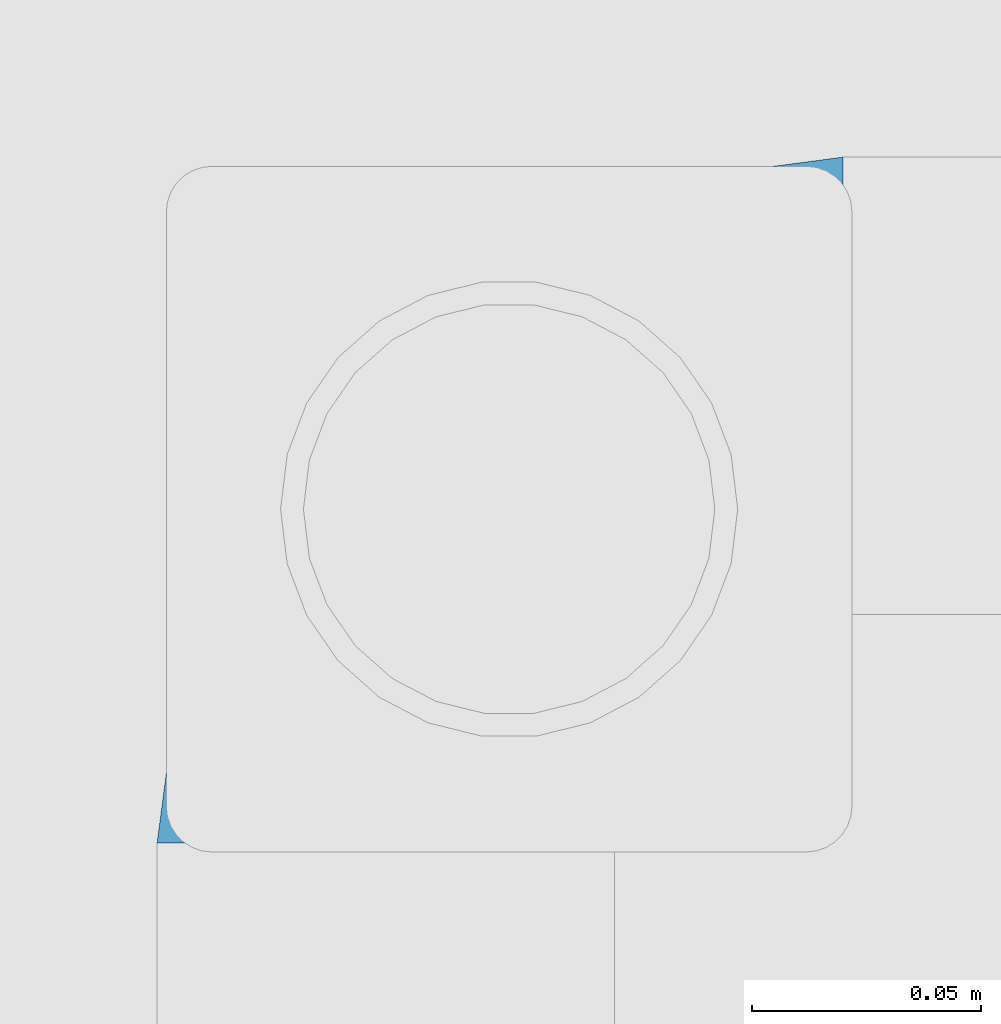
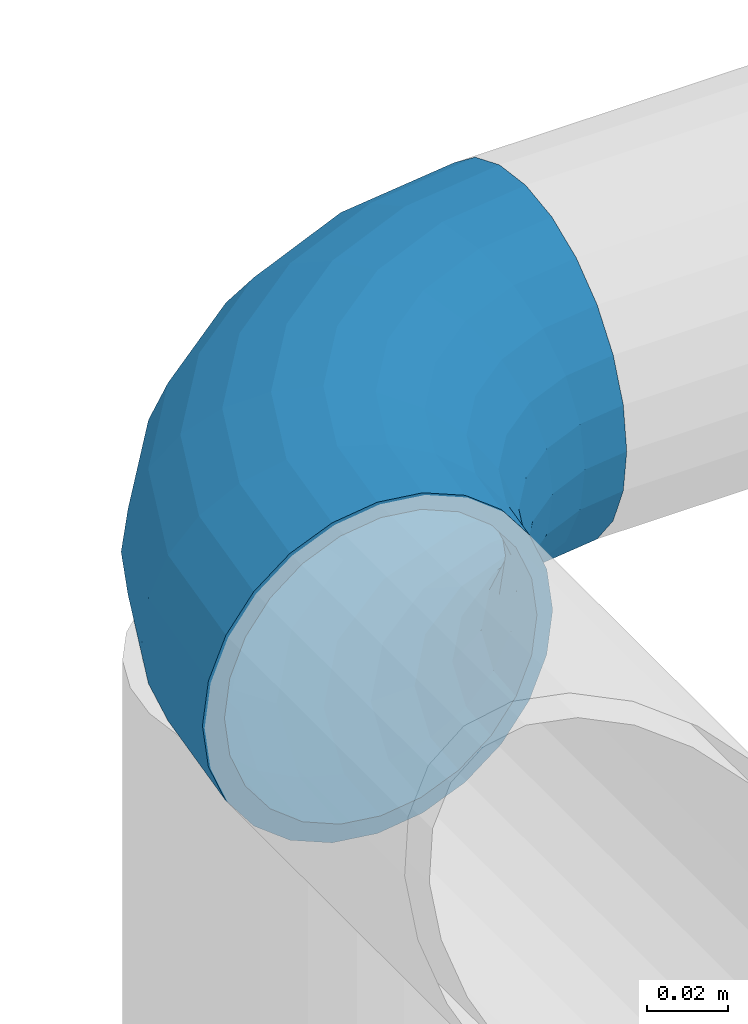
# One storey, part 152 of 418: 1 discrete accessory.
"""IFC2X3 building model written with IfcOpenShell, lengths in millimetres."""

from ifc_helpers import new_model, entity, si_unit, converted_unit, derived_unit, money_unit, direction, frame, origin_with_axes, place, context, subcontext, project, spatial, faceted_brep, type_object, element, save


model = new_model("IFC2X3")

# Units and contexts
model_context = context("Model", 3, precision=0.01, world=origin_with_axes(), true_north=direction((0.0, 1.0)))
body_context = subcontext(model_context, "Body", "Model", "MODEL_VIEW")
ifc_project = project(units=[si_unit("LENGTHUNIT", "METRE", prefix="MILLI"), si_unit("AREAUNIT", "SQUARE_METRE"), si_unit("VOLUMEUNIT", "CUBIC_METRE"), converted_unit("PLANEANGLEUNIT", "DEGREE", entity("IfcPlaneAngleMeasure", 0.0174532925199), si_unit("PLANEANGLEUNIT", "RADIAN"), dimensions=[0, 0, 0, 0, 0, 0, 0]), si_unit("SOLIDANGLEUNIT", "STERADIAN"), money_unit("EUR"), converted_unit("TIMEUNIT", "Year", entity("IfcTimeMeasure", 31556926.0), si_unit("TIMEUNIT", "SECOND"), dimensions=[0, 0, 1, 0, 0, 0, 0]), si_unit("MASSUNIT", "GRAM", prefix="KILO"), si_unit("THERMODYNAMICTEMPERATUREUNIT", "DEGREE_CELSIUS"), si_unit("LUMINOUSINTENSITYUNIT", "LUMEN"), si_unit("ENERGYUNIT", "JOULE", prefix="MEGA"), derived_unit("THERMALCONDUCTANCEUNIT", [(si_unit("POWERUNIT", "WATT"), 1), (si_unit("LENGTHUNIT", "METRE"), -1), (si_unit("THERMODYNAMICTEMPERATUREUNIT", "KELVIN"), -1)]), derived_unit("SPECIFICHEATCAPACITYUNIT", [(si_unit("ENERGYUNIT", "JOULE"), 1), (si_unit("MASSUNIT", "GRAM", prefix="KILO"), -1), (si_unit("THERMODYNAMICTEMPERATUREUNIT", "KELVIN"), -1)]), derived_unit("MASSDENSITYUNIT", [(si_unit("MASSUNIT", "GRAM", prefix="KILO"), 1), (si_unit("VOLUMEUNIT", "CUBIC_METRE"), -1)])], contexts=[model_context])

# Site, building, storey
site_placement = place(None, origin_with_axes())
site = spatial("IfcSite", under=ifc_project, at=site_placement, Name="Paldiski mnt 245/1, Tallinn, Harjumaa", CompositionType="COMPLEX")
building_placement = place(site_placement, origin_with_axes())
building = spatial("IfcBuilding", under=site, at=building_placement, Name="RKAS Hoone üldnimetus (kasutust iseloomustav) -> IFC Project Manager -> SOLIBRI", CompositionType="ELEMENT")
storey_placement = place(building_placement, origin_with_axes())
storey = spatial("IfcBuildingStorey", under=building, at=storey_placement, Name="Esimene korrus", CompositionType="ELEMENT", Elevation=0.0)

# Discrete accessory
discrete_accessory_type = type_object("IfcDiscreteAccessoryType", Name="Elbow Tube 23")
discrete_accessory_placement = place(storey_placement, frame((-64473.5006649, 36573.4999944, 200.0), z_axis=(0.0, 0.0, 1.0), x_axis=(0.0, 1.0, 0.0)))
element("IfcDiscreteAccessory", 1, at=discrete_accessory_placement, inside=storey, type_object=discrete_accessory_type, Name="Päikesepaneel", context=body_context, shape_type="Brep", body=[
    faceted_brep([(-48.2962913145, 0.0, -12.9409522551), (-43.3012701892, 0.0, -25.0), (-35.3553390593, 0.0, -35.3553390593), (-25.0, 0.0, -43.3012701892), (-12.9409522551, 0.0, -48.2962913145), (0.0, 0.0, -50.0), (12.9409522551, 0.0, -48.2962913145), (25.0, 0.0, -43.3012701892), (35.3553390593, 0.0, -35.3553390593), (43.3012701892, 0.0, -25.0), (48.2962913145, 0.0, -12.9409522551), (50.0, 0.0, 0.0), (48.2962913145, 0.0, 12.9409522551), (43.3012701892, 0.0, 25.0), (35.3553390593, 0.0, 35.3553390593), (25.0, 0.0, 43.3012701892), (12.9409522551, 0.0, 48.2962913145), (0.0, 0.0, 50.0), (-12.9409522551, 0.0, 48.2962913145), (-25.0, 0.0, 43.3012701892), (-35.3553390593, 0.0, 35.3553390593), (-43.3012701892, 0.0, 25.0), (-48.2962913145, 0.0, 12.9409522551), (-50.0, 0.0, 0.0), (-39.513173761, 0.0, 22.5), (-32.4253506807, 0.0, 31.8198051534), (-23.1883198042, 0.0, 38.9711431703), (-12.4315695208, 0.0, 43.466662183), (-0.888154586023, 0.0, 45.0), (10.6552603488, 0.0, 43.466662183), (21.4120106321, 0.0, 38.9711431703), (30.6490415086, 0.0, 31.8198051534), (37.736864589, 0.0, 22.5), (42.1924564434, 0.0, 11.6468570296), (43.7121758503, 0.0, 0.0), (42.1924564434, 0.0, -11.6468570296), (37.736864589, 0.0, -22.5), (30.6490415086, 0.0, -31.8198051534), (21.4120106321, 0.0, -38.9711431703), (10.6552603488, 0.0, -43.466662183), (-0.888154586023, 0.0, -45.0), (-12.4315695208, 0.0, -43.466662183), (-23.1883198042, 0.0, -38.9711431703), (-32.4253506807, 0.0, -31.8198051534), (-39.513173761, 0.0, -22.5), (-43.9687656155, 0.0, -11.6468570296), (-45.4884850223, 0.0, 0.0), (-43.9687656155, 0.0, 11.6468570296), (-45.233232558, 14.6747111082, -25.0), (-50.0580524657, 13.3819045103, -12.9409522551), (-37.5580524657, 16.7312694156, -35.3553390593), (-27.5555630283, 19.4114283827, -43.3012701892), (-15.9074173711, 22.5325396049, -48.2962913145), (-3.40741737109, 25.8819045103, -50.0), (9.09258262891, 29.2312694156, -48.2962913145), (20.7407282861, 32.3523806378, -43.3012701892), (30.7432177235, 35.0325396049, -35.3553390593), (38.4183978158, 37.0890979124, -25.0), (43.2432177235, 38.3819045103, -12.9409522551), (44.8888739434, 38.8228567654, 0.0), (43.2432177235, 38.3819045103, 12.9409522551), (38.4183978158, 37.0890979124, 25.0), (30.7432177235, 35.0325396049, 35.3553390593), (20.7407282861, 32.3523806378, 43.3012701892), (9.09258262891, 29.2312694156, 48.2962913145), (-3.40741737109, 25.8819045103, 50.0), (-15.9074173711, 22.5325396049, 48.2962913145), (-27.5555630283, 19.4114283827, 43.3012701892), (-37.5580524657, 16.7312694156, 35.3553390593), (-45.233232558, 14.6747111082, 25.0), (-50.0580524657, 13.3819045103, 12.9409522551), (-51.7037086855, 12.9409522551, 0.0), (-40.2319614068, 12.3411072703, 22.5), (-33.2283655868, 13.787233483, 31.8198051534), (-24.1011018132, 15.6718618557, 38.9711431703), (-13.4721780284, 17.8665580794, 43.466662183), (-2.06593782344, 20.2217572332, 45.0), (9.34030238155, 22.576956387, 43.466662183), (19.9692261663, 24.7716526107, 38.9711431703), (29.0964899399, 26.6562809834, 31.8198051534), (36.1000857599, 28.1024071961, 22.5), (40.5027301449, 29.0114801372, 11.6468570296), (42.004390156, 29.3215479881, 0.0), (40.5027301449, 29.0114801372, -11.6468570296), (36.1000857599, 28.1024071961, -22.5), (29.0964899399, 26.6562809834, -31.8198051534), (19.9692261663, 24.7716526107, -38.9711431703), (9.34030238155, 22.576956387, -43.466662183), (-2.06593782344, 20.2217572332, -45.0), (-13.4721780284, 17.8665580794, -43.466662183), (-24.1011018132, 15.6718618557, -38.9711431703), (-33.2283655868, 13.787233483, -31.8198051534), (-40.2319614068, 12.3411072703, -22.5), (-44.6346057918, 11.4320343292, -11.6468570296), (-46.1362658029, 11.1219664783, 0.0), (-44.6346057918, 11.4320343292, 11.6468570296), (-50.8974596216, 28.3493649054, -25.0), (-55.2232748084, 25.8518543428, -12.9409522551), (-44.0160814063, 32.3223304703, -35.3553390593), (-35.0480947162, 37.5, -43.3012701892), (-24.6046530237, 43.5295238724, -48.2962913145), (-13.3974596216, 50.0, -50.0), (-2.19026621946, 56.4704761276, -48.2962913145), (8.25317547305, 62.5, -43.3012701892), (17.2211621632, 67.6776695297, -35.3553390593), (24.1025403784, 71.6506350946, -25.0), (28.4283555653, 74.1481456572, -12.9409522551), (29.9038105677, 75.0, 0.0), (28.4283555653, 74.1481456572, 12.9409522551), (24.1025403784, 71.6506350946, 25.0), (17.2211621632, 67.6776695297, 35.3553390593), (8.25317547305, 62.5, 43.3012701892), (-2.19026621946, 56.4704761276, 48.2962913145), (-13.3974596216, 50.0, 50.0), (-24.6046530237, 43.5295238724, 48.2962913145), (-35.0480947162, 37.5, 43.3012701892), (-44.0160814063, 32.3223304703, 35.3553390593), (-50.8974596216, 28.3493649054, 25.0), (-55.2232748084, 25.8518543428, 12.9409522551), (-56.6987298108, 25.0, 0.0), (-39.9876976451, 32.3583456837, 31.8198051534), (-46.2823153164, 28.9643180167, 22.5), (-31.7843921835, 36.7815286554, 38.9711431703), (-22.2314406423, 41.9324343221, 43.466662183), (-11.979860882, 47.4600369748, 45.0), (-1.72828112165, 52.9876396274, 43.466662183), (7.82467041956, 58.1385452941, 38.9711431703), (16.0279758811, 62.5617282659, 31.8198051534), (22.3225935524, 65.9557559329, 22.5), (26.2795556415, 68.0893309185, 11.6468570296), (27.6292017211, 68.8170536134, 0.0), (26.2795556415, 68.0893309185, -11.6468570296), (22.3225935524, 65.9557559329, -22.5), (16.0279758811, 62.5617282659, -31.8198051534), (7.82467041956, 58.1385452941, -38.9711431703), (-1.72828112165, 52.9876396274, -43.466662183), (-11.979860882, 47.4600369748, -45.0), (-22.2314406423, 41.9324343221, -43.466662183), (-31.7843921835, 36.7815286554, -38.9711431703), (-39.9876976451, 32.3583456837, -31.8198051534), (-46.2823153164, 28.9643180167, -22.5), (-50.2392774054, 26.830743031, -11.6468570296), (-51.5889234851, 26.1030203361, 0.0), (-50.2392774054, 26.830743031, 11.6468570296), (-59.9079436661, 40.0920563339, -25.0), (-63.439956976, 36.560043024, -12.9409522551), (-54.2893218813, 45.7106781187, -35.3553390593), (-46.966991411, 53.033008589, -43.3012701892), (-38.439956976, 61.560043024, -48.2962913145), (-29.2893218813, 70.7106781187, -50.0), (-20.1386867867, 79.8613132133, -48.2962913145), (-11.6116523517, 88.3883476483, -43.3012701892), (-4.28932188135, 95.7106781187, -35.3553390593), (1.32929990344, 101.329299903, -25.0), (4.86131321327, 104.861313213, -12.9409522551), (6.06601717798, 106.066017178, 0.0), (4.86131321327, 104.861313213, 12.9409522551), (1.32929990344, 101.329299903, 25.0), (-4.28932188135, 95.7106781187, 35.3553390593), (-11.6116523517, 88.3883476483, 43.3012701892), (-20.1386867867, 79.8613132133, 48.2962913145), (-29.2893218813, 70.7106781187, 50.0), (-38.439956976, 61.560043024, 48.2962913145), (-46.966991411, 53.033008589, 43.3012701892), (-54.2893218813, 45.7106781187, 35.3553390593), (-59.9079436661, 40.0920563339, 25.0), (-63.439956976, 36.560043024, 12.9409522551), (-64.6446609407, 35.3553390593, 0.0), (-51.7893218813, 48.2106781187, 31.8198051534), (-56.8460814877, 43.1539185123, 22.5), (-45.199224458, 54.800775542, 38.9711431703), (-37.5248934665, 62.4751065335, 43.466662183), (-29.2893218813, 70.7106781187, 45.0), (-21.0537502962, 78.9462497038, 43.466662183), (-13.3794193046, 86.6205806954, 38.9711431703), (-6.78932188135, 93.2106781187, 31.8198051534), (-1.73256227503, 98.267437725, 22.5), (1.4462497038, 101.446249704, 11.6468570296), (2.53048327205, 102.530483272, 0.0), (1.4462497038, 101.446249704, -11.6468570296), (-1.73256227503, 98.267437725, -22.5), (-6.78932188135, 93.2106781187, -31.8198051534), (-13.3794193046, 86.6205806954, -38.9711431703), (-21.0537502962, 78.9462497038, -43.466662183), (-29.2893218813, 70.7106781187, -45.0), (-37.5248934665, 62.4751065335, -43.466662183), (-45.199224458, 54.800775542, -38.9711431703), (-51.7893218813, 48.2106781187, -31.8198051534), (-56.8460814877, 43.1539185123, -22.5), (-60.0248934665, 39.9751065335, -11.6468570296), (-61.1091270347, 38.8908729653, 0.0), (-60.0248934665, 39.9751065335, 11.6468570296), (-71.6506350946, 49.1025403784, -25.0), (-74.1481456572, 44.7767251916, -12.9409522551), (-67.6776695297, 55.9839185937, -35.3553390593), (-62.5, 64.9519052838, -43.3012701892), (-56.4704761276, 75.3953469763, -48.2962913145), (-50.0, 86.6025403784, -50.0), (-43.5295238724, 97.8097337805, -48.2962913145), (-37.5, 108.253175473, -43.3012701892), (-32.3223304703, 117.221162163, -35.3553390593), (-28.3493649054, 124.102540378, -25.0), (-25.8518543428, 128.428355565, -12.9409522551), (-25.0, 129.903810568, 0.0), (-25.8518543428, 128.428355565, 12.9409522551), (-28.3493649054, 124.102540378, 25.0), (-32.3223304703, 117.221162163, 35.3553390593), (-37.5, 108.253175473, 43.3012701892), (-43.5295238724, 97.8097337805, 48.2962913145), (-50.0, 86.6025403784, 50.0), (-56.4704761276, 75.3953469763, 48.2962913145), (-62.5, 64.9519052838, 43.3012701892), (-67.6776695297, 55.9839185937, 35.3553390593), (-71.6506350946, 49.1025403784, 25.0), (-74.1481456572, 44.7767251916, 12.9409522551), (-75.0, 43.3012701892, 0.0), (-67.6416543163, 60.0123023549, 31.8198051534), (-71.0356819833, 53.7176846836, 22.5), (-63.2184713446, 68.2156078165, 38.9711431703), (-58.0675656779, 77.7685593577, 43.466662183), (-52.5399630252, 88.020139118, 45.0), (-47.0123603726, 98.2717188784, 43.466662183), (-41.8614547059, 107.82467042, 38.9711431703), (-37.4382717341, 116.027975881, 31.8198051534), (-34.0442440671, 122.322593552, 22.5), (-31.9106690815, 126.279555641, 11.6468570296), (-31.1829463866, 127.629201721, 0.0), (-31.9106690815, 126.279555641, -11.6468570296), (-34.0442440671, 122.322593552, -22.5), (-37.4382717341, 116.027975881, -31.8198051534), (-41.8614547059, 107.82467042, -38.9711431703), (-47.0123603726, 98.2717188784, -43.466662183), (-52.5399630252, 88.020139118, -45.0), (-58.0675656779, 77.7685593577, -43.466662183), (-63.2184713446, 68.2156078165, -38.9711431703), (-67.6416543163, 60.0123023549, -31.8198051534), (-71.0356819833, 53.7176846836, -22.5), (-73.169256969, 49.7607225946, -11.6468570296), (-73.8969796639, 48.4110765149, 0.0), (-73.169256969, 49.7607225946, 11.6468570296), (-85.3252888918, 54.766767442, -25.0), (-86.6180954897, 49.9419475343, -12.9409522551), (-83.2687305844, 62.4419475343, -35.3553390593), (-80.5885716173, 72.4444369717, -43.3012701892), (-77.4674603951, 84.0925826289, -48.2962913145), (-74.1180954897, 96.5925826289, -50.0), (-70.7687305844, 109.092582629, -48.2962913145), (-67.6476193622, 120.740728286, -43.3012701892), (-64.9674603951, 130.743217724, -35.3553390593), (-62.9109020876, 138.418397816, -25.0), (-61.6180954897, 143.243217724, -12.9409522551), (-61.1771432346, 144.888873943, 0.0), (-61.6180954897, 143.243217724, 12.9409522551), (-62.9109020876, 138.418397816, 25.0), (-64.9674603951, 130.743217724, 35.3553390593), (-67.6476193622, 120.740728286, 43.3012701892), (-70.7687305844, 109.092582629, 48.2962913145), (-74.1180954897, 96.5925826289, 50.0), (-77.4674603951, 84.0925826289, 48.2962913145), (-80.5885716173, 72.4444369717, 43.3012701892), (-83.2687305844, 62.4419475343, 35.3553390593), (-85.3252888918, 54.766767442, 25.0), (-86.6180954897, 49.9419475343, 12.9409522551), (-87.0590477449, 48.2962913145, 0.0), (-86.212766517, 66.7716344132, 31.8198051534), (-87.6588927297, 59.7680385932, 22.5), (-84.3281381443, 75.8988981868, 38.9711431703), (-82.1334419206, 86.5278219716, 43.466662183), (-79.7782427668, 97.9340621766, 45.0), (-77.423043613, 109.340302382, 43.466662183), (-75.2283473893, 119.969226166, 38.9711431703), (-73.3437190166, 129.09648994, 31.8198051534), (-71.8975928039, 136.10008576, 22.5), (-70.9885198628, 140.502730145, 11.6468570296), (-70.6784520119, 142.004390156, 0.0), (-70.9885198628, 140.502730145, -11.6468570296), (-71.8975928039, 136.10008576, -22.5), (-73.3437190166, 129.09648994, -31.8198051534), (-75.2283473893, 119.969226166, -38.9711431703), (-77.423043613, 109.340302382, -43.466662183), (-79.7782427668, 97.9340621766, -45.0), (-82.1334419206, 86.5278219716, -43.466662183), (-84.3281381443, 75.8988981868, -38.9711431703), (-86.212766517, 66.7716344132, -31.8198051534), (-87.6588927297, 59.7680385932, -22.5), (-88.5679656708, 55.3653942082, -11.6468570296), (-88.8780335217, 53.8637341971, 0.0), (-88.5679656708, 55.3653942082, 11.6468570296), (-100.0, 56.6987298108, -25.0), (-100.0, 51.7037086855, -12.9409522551), (-100.0, 64.6446609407, -35.3553390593), (-100.0, 75.0, -43.3012701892), (-100.0, 87.0590477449, -48.2962913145), (-100.0, 100.0, -50.0), (-100.0, 112.940952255, -48.2962913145), (-100.0, 125.0, -43.3012701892), (-100.0, 135.355339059, -35.3553390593), (-100.0, 143.301270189, -25.0), (-100.0, 148.296291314, -12.9409522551), (-100.0, 150.0, 0.0), (-100.0, 148.296291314, 12.9409522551), (-100.0, 143.301270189, 25.0), (-100.0, 135.355339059, 35.3553390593), (-100.0, 125.0, 43.3012701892), (-100.0, 112.940952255, 48.2962913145), (-100.0, 100.0, 50.0), (-100.0, 87.0590477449, 48.2962913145), (-100.0, 75.0, 43.3012701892), (-100.0, 64.6446609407, 35.3553390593), (-100.0, 56.6987298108, 25.0), (-100.0, 51.7037086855, 12.9409522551), (-100.0, 50.0, 0.0), (-100.0, 67.5746493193, 31.8198051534), (-100.0, 60.486826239, 22.5), (-100.0, 76.8116801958, 38.9711431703), (-100.0, 87.5684304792, 43.466662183), (-100.0, 99.111845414, 45.0), (-100.0, 110.655260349, 43.466662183), (-100.0, 121.412010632, 38.9711431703), (-100.0, 130.649041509, 31.8198051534), (-100.0, 137.736864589, 22.5), (-100.0, 142.192456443, 11.6468570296), (-100.0, 143.71217585, 0.0), (-100.0, 142.192456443, -11.6468570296), (-100.0, 137.736864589, -22.5), (-100.0, 130.649041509, -31.8198051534), (-100.0, 121.412010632, -38.9711431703), (-100.0, 110.655260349, -43.466662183), (-100.0, 99.111845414, -45.0), (-100.0, 87.5684304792, -43.466662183), (-100.0, 76.8116801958, -38.9711431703), (-100.0, 67.5746493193, -31.8198051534), (-100.0, 60.486826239, -22.5), (-100.0, 56.0312343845, -11.6468570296), (-100.0, 54.5115149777, 0.0), (-100.0, 56.0312343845, 11.6468570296)], [[[0, 1, 2, 3, 4, 5, 6, 7, 8, 9, 10, 11, 12, 13, 14, 15, 16, 17, 18, 19, 20, 21, 22, 23], [24, 25, 26, 27, 28, 29, 30, 31, 32, 33, 34, 35, 36, 37, 38, 39, 40, 41, 42, 43, 44, 45, 46, 47]], [[48, 1, 0, 49]], [[50, 2, 1, 48]], [[51, 3, 2, 50]], [[52, 4, 3, 51]], [[53, 5, 4, 52]], [[54, 6, 5, 53]], [[55, 7, 6, 54]], [[56, 8, 7, 55]], [[57, 9, 8, 56]], [[58, 10, 9, 57]], [[59, 11, 10, 58]], [[60, 12, 11, 59]], [[61, 13, 12, 60]], [[62, 14, 13, 61]], [[63, 15, 14, 62]], [[64, 16, 15, 63]], [[65, 17, 16, 64]], [[66, 18, 17, 65]], [[67, 19, 18, 66]], [[68, 20, 19, 67]], [[69, 21, 20, 68]], [[70, 22, 21, 69]], [[71, 23, 22, 70]], [[49, 0, 23, 71]], [[24, 72, 73, 25]], [[25, 73, 74, 26]], [[26, 74, 75, 27]], [[27, 75, 76, 28]], [[28, 76, 77, 29]], [[29, 77, 78, 30]], [[30, 78, 79, 31]], [[31, 79, 80, 32]], [[32, 80, 81, 33]], [[33, 81, 82, 34]], [[34, 82, 83, 35]], [[35, 83, 84, 36]], [[36, 84, 85, 37]], [[37, 85, 86, 38]], [[38, 86, 87, 39]], [[39, 87, 88, 40]], [[40, 88, 89, 41]], [[41, 89, 90, 42]], [[42, 90, 91, 43]], [[43, 91, 92, 44]], [[44, 92, 93, 45]], [[45, 93, 94, 46]], [[46, 94, 95, 47]], [[47, 95, 72, 24]], [[96, 48, 49, 97]], [[98, 50, 48, 96]], [[99, 51, 50, 98]], [[100, 52, 51, 99]], [[101, 53, 52, 100]], [[102, 54, 53, 101]], [[103, 55, 54, 102]], [[104, 56, 55, 103]], [[105, 57, 56, 104]], [[106, 58, 57, 105]], [[107, 59, 58, 106]], [[108, 60, 59, 107]], [[109, 61, 60, 108]], [[110, 62, 61, 109]], [[111, 63, 62, 110]], [[112, 64, 63, 111]], [[113, 65, 64, 112]], [[114, 66, 65, 113]], [[115, 67, 66, 114]], [[116, 68, 67, 115]], [[117, 69, 68, 116]], [[118, 70, 69, 117]], [[119, 71, 70, 118]], [[97, 49, 71, 119]], [[120, 73, 72, 121]], [[122, 74, 73, 120]], [[123, 75, 74, 122]], [[124, 76, 75, 123]], [[125, 77, 76, 124]], [[126, 78, 77, 125]], [[127, 79, 78, 126]], [[128, 80, 79, 127]], [[129, 81, 80, 128]], [[130, 82, 81, 129]], [[131, 83, 82, 130]], [[132, 84, 83, 131]], [[133, 85, 84, 132]], [[134, 86, 85, 133]], [[135, 87, 86, 134]], [[136, 88, 87, 135]], [[137, 89, 88, 136]], [[138, 90, 89, 137]], [[139, 91, 90, 138]], [[140, 92, 91, 139]], [[141, 93, 92, 140]], [[142, 94, 93, 141]], [[143, 95, 94, 142]], [[121, 72, 95, 143]], [[144, 96, 97, 145]], [[146, 98, 96, 144]], [[147, 99, 98, 146]], [[148, 100, 99, 147]], [[149, 101, 100, 148]], [[150, 102, 101, 149]], [[151, 103, 102, 150]], [[152, 104, 103, 151]], [[153, 105, 104, 152]], [[154, 106, 105, 153]], [[155, 107, 106, 154]], [[156, 108, 107, 155]], [[157, 109, 108, 156]], [[158, 110, 109, 157]], [[159, 111, 110, 158]], [[160, 112, 111, 159]], [[161, 113, 112, 160]], [[162, 114, 113, 161]], [[163, 115, 114, 162]], [[164, 116, 115, 163]], [[165, 117, 116, 164]], [[166, 118, 117, 165]], [[167, 119, 118, 166]], [[145, 97, 119, 167]], [[168, 120, 121, 169]], [[170, 122, 120, 168]], [[171, 123, 122, 170]], [[172, 124, 123, 171]], [[173, 125, 124, 172]], [[174, 126, 125, 173]], [[175, 127, 126, 174]], [[176, 128, 127, 175]], [[177, 129, 128, 176]], [[178, 130, 129, 177]], [[179, 131, 130, 178]], [[180, 132, 131, 179]], [[181, 133, 132, 180]], [[182, 134, 133, 181]], [[183, 135, 134, 182]], [[184, 136, 135, 183]], [[185, 137, 136, 184]], [[186, 138, 137, 185]], [[187, 139, 138, 186]], [[188, 140, 139, 187]], [[189, 141, 140, 188]], [[190, 142, 141, 189]], [[191, 143, 142, 190]], [[169, 121, 143, 191]], [[192, 144, 145, 193]], [[194, 146, 144, 192]], [[195, 147, 146, 194]], [[196, 148, 147, 195]], [[197, 149, 148, 196]], [[198, 150, 149, 197]], [[199, 151, 150, 198]], [[200, 152, 151, 199]], [[201, 153, 152, 200]], [[202, 154, 153, 201]], [[203, 155, 154, 202]], [[204, 156, 155, 203]], [[205, 157, 156, 204]], [[206, 158, 157, 205]], [[207, 159, 158, 206]], [[208, 160, 159, 207]], [[209, 161, 160, 208]], [[210, 162, 161, 209]], [[211, 163, 162, 210]], [[212, 164, 163, 211]], [[213, 165, 164, 212]], [[214, 166, 165, 213]], [[215, 167, 166, 214]], [[193, 145, 167, 215]], [[216, 168, 169, 217]], [[218, 170, 168, 216]], [[219, 171, 170, 218]], [[220, 172, 171, 219]], [[221, 173, 172, 220]], [[222, 174, 173, 221]], [[223, 175, 174, 222]], [[224, 176, 175, 223]], [[225, 177, 176, 224]], [[226, 178, 177, 225]], [[227, 179, 178, 226]], [[228, 180, 179, 227]], [[229, 181, 180, 228]], [[230, 182, 181, 229]], [[231, 183, 182, 230]], [[232, 184, 183, 231]], [[233, 185, 184, 232]], [[234, 186, 185, 233]], [[235, 187, 186, 234]], [[236, 188, 187, 235]], [[237, 189, 188, 236]], [[238, 190, 189, 237]], [[239, 191, 190, 238]], [[217, 169, 191, 239]], [[240, 192, 193, 241]], [[242, 194, 192, 240]], [[243, 195, 194, 242]], [[244, 196, 195, 243]], [[245, 197, 196, 244]], [[246, 198, 197, 245]], [[247, 199, 198, 246]], [[248, 200, 199, 247]], [[249, 201, 200, 248]], [[250, 202, 201, 249]], [[251, 203, 202, 250]], [[252, 204, 203, 251]], [[253, 205, 204, 252]], [[254, 206, 205, 253]], [[255, 207, 206, 254]], [[256, 208, 207, 255]], [[257, 209, 208, 256]], [[258, 210, 209, 257]], [[259, 211, 210, 258]], [[260, 212, 211, 259]], [[261, 213, 212, 260]], [[262, 214, 213, 261]], [[263, 215, 214, 262]], [[241, 193, 215, 263]], [[264, 216, 217, 265]], [[266, 218, 216, 264]], [[267, 219, 218, 266]], [[268, 220, 219, 267]], [[269, 221, 220, 268]], [[270, 222, 221, 269]], [[271, 223, 222, 270]], [[272, 224, 223, 271]], [[273, 225, 224, 272]], [[274, 226, 225, 273]], [[275, 227, 226, 274]], [[276, 228, 227, 275]], [[277, 229, 228, 276]], [[278, 230, 229, 277]], [[279, 231, 230, 278]], [[280, 232, 231, 279]], [[281, 233, 232, 280]], [[282, 234, 233, 281]], [[283, 235, 234, 282]], [[284, 236, 235, 283]], [[285, 237, 236, 284]], [[286, 238, 237, 285]], [[287, 239, 238, 286]], [[265, 217, 239, 287]], [[288, 240, 241, 289]], [[290, 242, 240, 288]], [[291, 243, 242, 290]], [[292, 244, 243, 291]], [[293, 245, 244, 292]], [[294, 246, 245, 293]], [[295, 247, 246, 294]], [[296, 248, 247, 295]], [[297, 249, 248, 296]], [[298, 250, 249, 297]], [[299, 251, 250, 298]], [[300, 252, 251, 299]], [[301, 253, 252, 300]], [[302, 254, 253, 301]], [[303, 255, 254, 302]], [[304, 256, 255, 303]], [[305, 257, 256, 304]], [[306, 258, 257, 305]], [[307, 259, 258, 306]], [[308, 260, 259, 307]], [[309, 261, 260, 308]], [[310, 262, 261, 309]], [[311, 263, 262, 310]], [[289, 241, 263, 311]], [[312, 264, 265, 313]], [[314, 266, 264, 312]], [[315, 267, 266, 314]], [[316, 268, 267, 315]], [[317, 269, 268, 316]], [[318, 270, 269, 317]], [[319, 271, 270, 318]], [[320, 272, 271, 319]], [[321, 273, 272, 320]], [[322, 274, 273, 321]], [[323, 275, 274, 322]], [[324, 276, 275, 323]], [[325, 277, 276, 324]], [[326, 278, 277, 325]], [[327, 279, 278, 326]], [[328, 280, 279, 327]], [[329, 281, 280, 328]], [[330, 282, 281, 329]], [[331, 283, 282, 330]], [[332, 284, 283, 331]], [[333, 285, 284, 332]], [[334, 286, 285, 333]], [[335, 287, 286, 334]], [[313, 265, 287, 335]], [[310, 309, 308, 307, 306, 305, 304, 303, 302, 301, 300, 299, 298, 297, 296, 295, 294, 293, 292, 291, 290, 288, 289, 311], [326, 325, 324, 323, 322, 321, 320, 319, 318, 317, 316, 315, 314, 312, 313, 335, 334, 333, 332, 331, 330, 329, 328, 327]]]),
])

save(model, "model.ifc")
